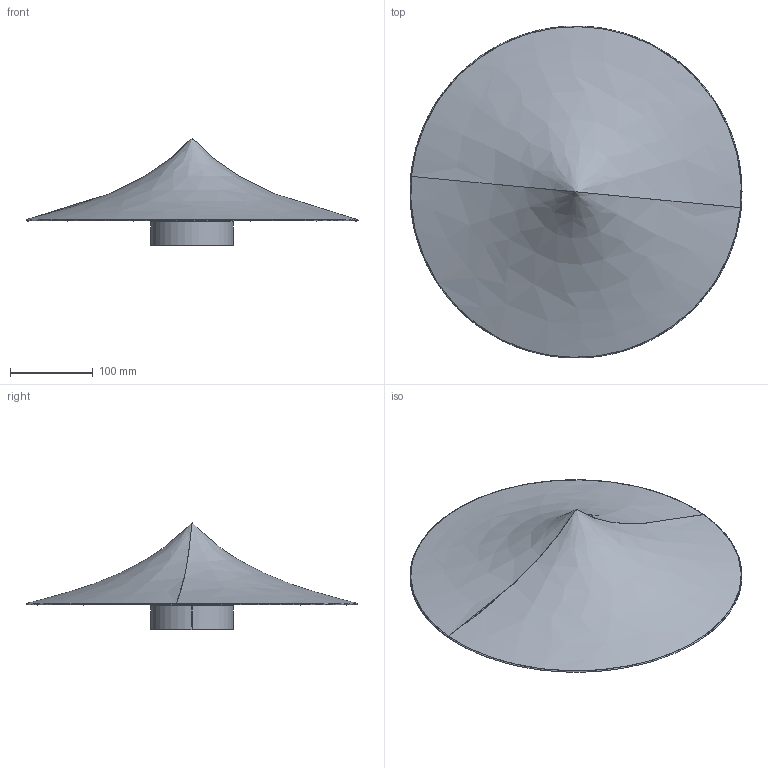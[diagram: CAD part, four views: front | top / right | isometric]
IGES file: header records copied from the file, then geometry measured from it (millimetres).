
Start section: SolidWorks IGES file using analytic representation for surfaces
Global section: file name: C:\Users\Agus\Desktop\NUEVAS PROPUESTAS 2021\1291- collection\aplique 1\A1291.IGS; native system: SolidWorks 2018; preprocessor: SolidWorks 2018; author: Agus; date: 210629.181709; units: millimetre
Bounding box: 401.51 x 401.5 x 130.1 mm (x, y, z)
Surface area: 376005.2 mm2 (no closed solid volume)
Topology: 0 solids, 0 shells, 41 faces, 1008 edges, 1004 vertices
Faces by surface type: bspline 23, revolution 18
